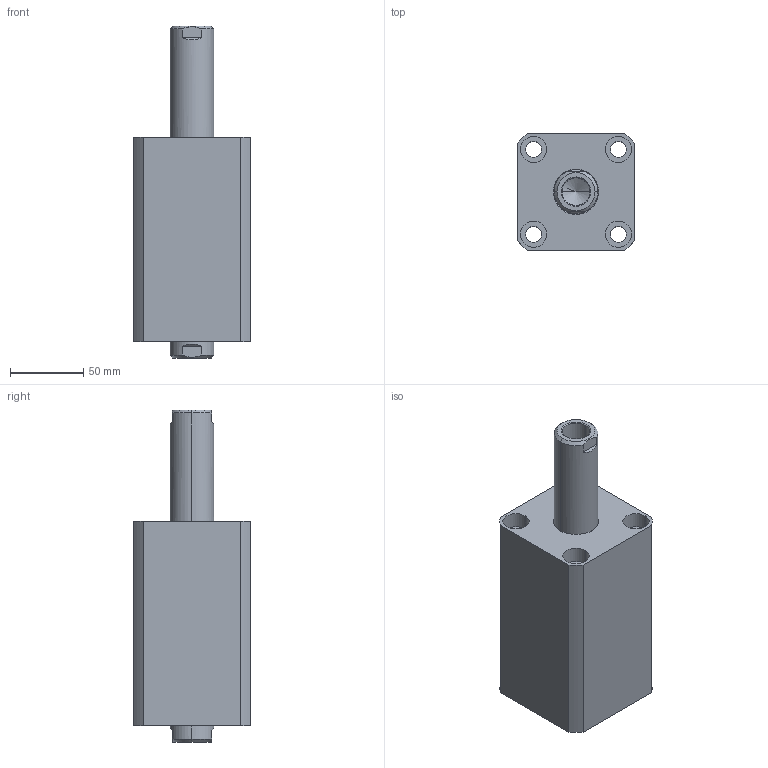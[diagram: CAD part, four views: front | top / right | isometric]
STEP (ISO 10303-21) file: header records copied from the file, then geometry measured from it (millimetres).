
FILE_DESCRIPTION (( 'STEP AP203' ), '1' );
FILE_NAME ('CHTB-SW50-65N.STEP', '2018-05-21T06:45:58', ( '' ), ( '' ), 'SwSTEP 2.0', 'SolidWorks 2015', '' );
FILE_SCHEMA (( 'CONFIG_CONTROL_DESIGN' ));
Length unit declared in the file: millimetre
Products named in the file (4): CHTB-SW50-65N; 活塞杆SW50-65N; 掛极SW50-65N; ヶ裔
Assembly tree (3 placements, depth 2):
  CHTB-SW50-65N
    掛极SW50-65N
    活塞杆SW50-65N
    ヶ裔
Bounding box: 80 x 80 x 227 mm (x, y, z)
Volume: 769746.8 mm3; surface area: 143387.5 mm2
Topology: 3 solids, 3 shells, 225 faces, 528 edges, 331 vertices
Faces by surface type: cylinder 118, plane 46, cone 33, torus 24, bspline 4
Entity records: 9698 total; most frequent: CARTESIAN_POINT 4235, DIRECTION 1104, ORIENTED_EDGE 1040, EDGE_CURVE 520, AXIS2_PLACEMENT_3D 462, VERTEX_POINT 331, EDGE_LOOP 271, CIRCLE 235
